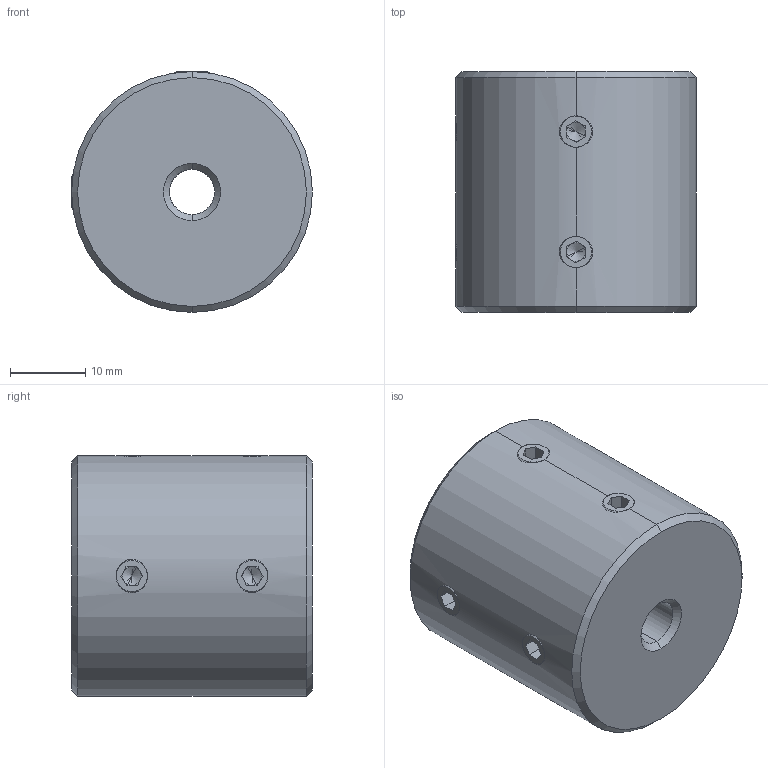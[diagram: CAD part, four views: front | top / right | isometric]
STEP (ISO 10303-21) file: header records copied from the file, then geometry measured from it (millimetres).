
FILE_DESCRIPTION (( 'STEP AP214' ), '1' );
FILE_NAME ('LL-D-D32L32-6-6½¨Ä£.STEP', '2022-07-22T11:15:53', ( '' ), ( '' ), 'SwSTEP 2.0', 'SolidWorks 2022', '' );
FILE_SCHEMA (( 'AUTOMOTIVE_DESIGN' ));
Length unit declared in the file: millimetre
Products named in the file (1): LL-D-D32L32-6-6膘耀
Bounding box: 32 x 32 x 32 mm (x, y, z)
Volume: 24417.6 mm3; surface area: 5641.4 mm2
Topology: 1 solids, 1 shells, 110 faces, 280 edges, 172 vertices
Faces by surface type: plane 58, cone 32, cylinder 20
Entity records: 3674 total; most frequent: CARTESIAN_POINT 1031, ORIENTED_EDGE 544, DIRECTION 542, EDGE_CURVE 272, AXIS2_PLACEMENT_3D 199, VERTEX_POINT 172, LINE 144, VECTOR 144
